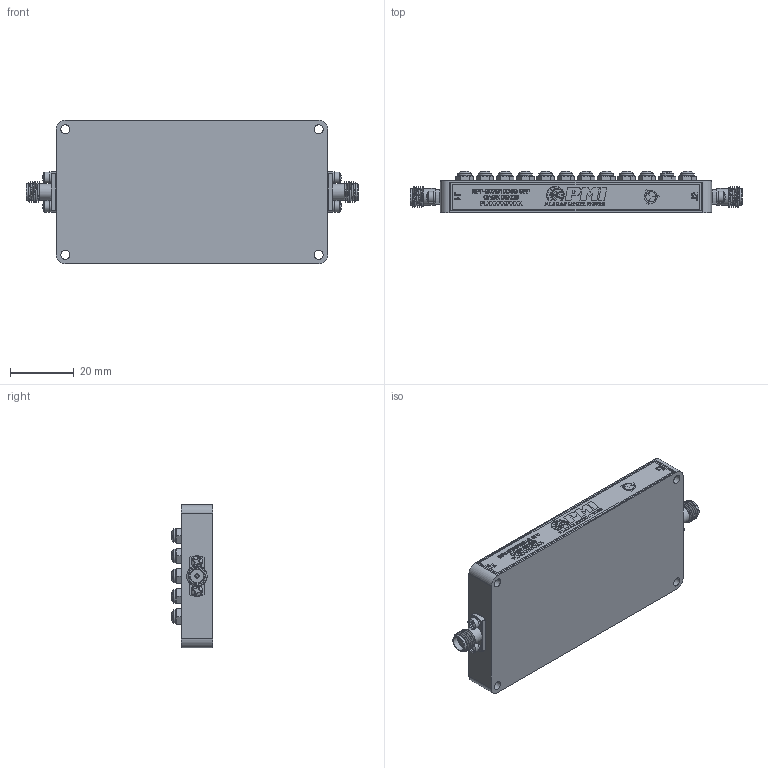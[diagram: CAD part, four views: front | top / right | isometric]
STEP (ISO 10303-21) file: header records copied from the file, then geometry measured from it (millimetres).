
FILE_DESCRIPTION (( 'STEP AP214' ), '1' );
FILE_NAME ('BPF-9D2G10D4G-SFF.STEP', '2026-09-03T15:37:23', ( '' ), ( '' ), 'SwSTEP 2.0', 'SolidWorks 2025', '' );
FILE_SCHEMA (( 'AUTOMOTIVE_DESIGN' ));
Length unit declared in the file: inch
Products named in the file (1): BPF-9D2G10D4G-SFF
Bounding box: 104.14 x 13 x 45.01 mm (x, y, z)
Volume: 39908.6 mm3; surface area: 19085.5 mm2
Topology: 92 solids, 92 shells, 2616 faces, 7005 edges, 4793 vertices
Faces by surface type: plane 1310, cylinder 680, cone 442, torus 122, sphere 58, bspline 4
Full cylindrical faces by diameter (mm): 0.305 x2, 0.381 x2, 0.559 x2, 1.016 x2, 1.27 x2, 2.184 x42, 2.54 x38, 2.591 x4, 2.794 x4, 2.845 x38, 3.302 x2, 3.556 x4, 4.191 x4, 4.242 x38, 4.597 x2, 5.283 x4
Entity records: 97915 total; most frequent: CARTESIAN_POINT 28357, ORIENTED_EDGE 13252, DIRECTION 11884, EDGE_CURVE 6626, VERTEX_POINT 4780, AXIS2_PLACEMENT_3D 4588, EDGE_LOOP 3294, FACE_OUTER_BOUND 2962
